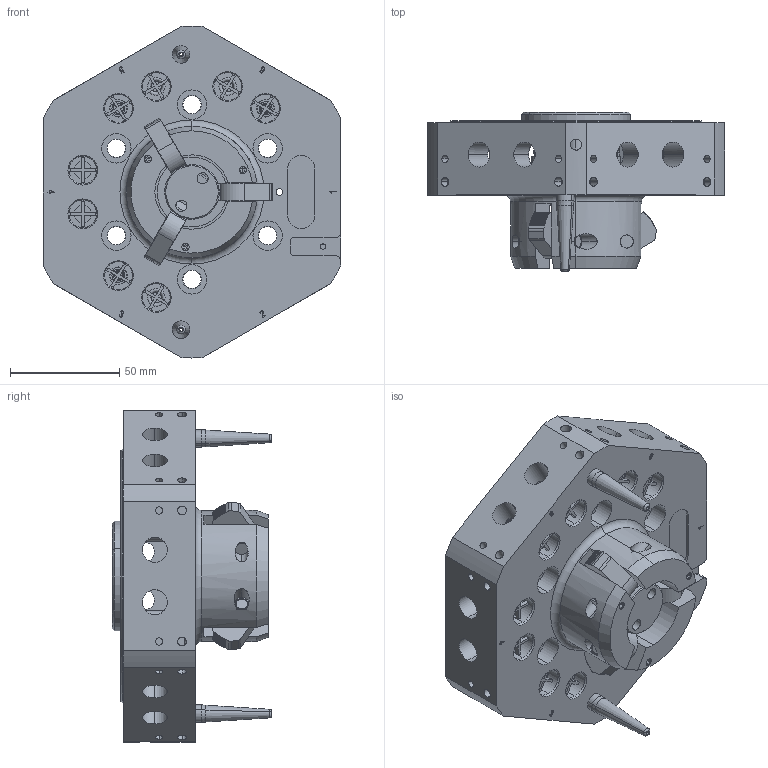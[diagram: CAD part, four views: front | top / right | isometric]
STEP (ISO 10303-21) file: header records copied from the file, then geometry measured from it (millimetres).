
FILE_DESCRIPTION (( 'STEP AP214' ), '1' );
FILE_NAME ('1607-D08A REV00.STEP', '2018-12-10T17:59:16', ( 'Any Employee' ), ( 'Applied Robotics Inc.' ), 'SwSTEP 2.0', 'SolidWorks 2019', '' );
FILE_SCHEMA (( 'AUTOMOTIVE_DESIGN' ));
Length unit declared in the file: millimetre
Products named in the file (1): 1607-D08A REV00
Bounding box: 136 x 73.02 x 152 mm (x, y, z)
Surface area: 103127.4 mm2 (no closed solid volume)
Topology: 0 solids, 67 shells, 964 faces, 3305 edges, 2385 vertices
Faces by surface type: plane 474, cylinder 258, bspline 140, cone 60, torus 32
Entity records: 82904 total; most frequent: CARTESIAN_POINT 44709, DIRECTION 5322, ORIENTED_EDGE 5265, EDGE_CURVE 3305, VERTEX_POINT 2385, VECTOR 1990, LINE 1990, AXIS2_PLACEMENT_3D 1666
